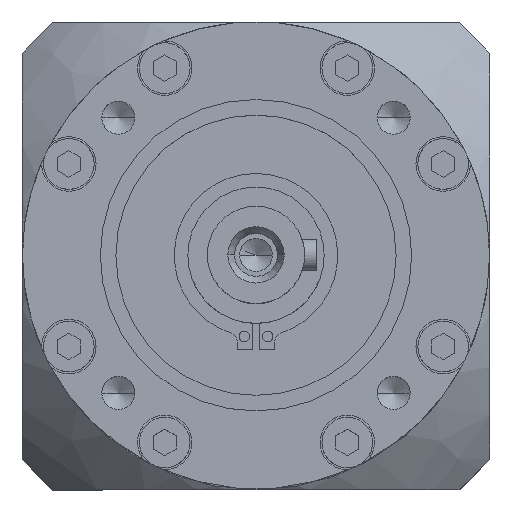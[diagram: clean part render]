
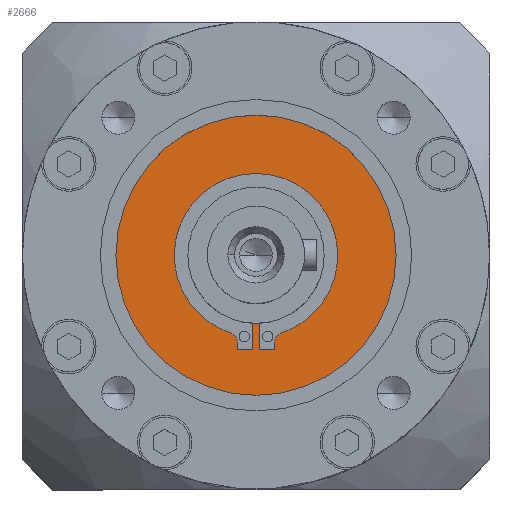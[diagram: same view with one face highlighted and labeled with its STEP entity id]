
A CAD part, top view. The second image highlights one B-rep face of the part: STEP entity #2666.
In plain terms, the highlighted planar face has unit normal (0, 0, 1).
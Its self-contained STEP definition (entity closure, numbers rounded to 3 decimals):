
#1144 = DIRECTION ( 'NONE',  ( 0., -1., 0. ) ) ;
#1232 = DIRECTION ( 'NONE',  ( -1., 0., 0. ) ) ;
#1300 = EDGE_CURVE ( 'NONE', #29089, #21396, #12555, .T. ) ;
#1798 = ORIENTED_EDGE ( 'NONE', *, *, #13590, .F. ) ;
#2118 = EDGE_CURVE ( 'NONE', #21396, #18505, #11483, .T. ) ;
#2312 = EDGE_CURVE ( 'NONE', #10813, #2798, #22223, .T. ) ;
#2423 = CARTESIAN_POINT ( 'NONE',  ( 4.85, -23.779, -4. ) ) ;
#2666 = ADVANCED_FACE ( 'NONE', ( #6902, #12531 ), #16217, .F. ) ;
#2798 = VERTEX_POINT ( 'NONE', #14805 ) ;
#3367 = VERTEX_POINT ( 'NONE', #7587 ) ;
#3915 = VERTEX_POINT ( 'NONE', #22861 ) ;
#4109 = VERTEX_POINT ( 'NONE', #15730 ) ;
#4716 = ORIENTED_EDGE ( 'NONE', *, *, #1300, .F. ) ;
#4730 = LINE ( 'NONE', #29627, #16746 ) ;
#4952 = VERTEX_POINT ( 'NONE', #22464 ) ;
#5133 = AXIS2_PLACEMENT_3D ( 'NONE', #15905, #15876, #15851 ) ;
#5168 = VECTOR ( 'NONE', #5936, 1000. ) ;
#5171 = CARTESIAN_POINT ( 'NONE',  ( 7.35, -22.321, -4. ) ) ;
#5290 = DIRECTION ( 'NONE',  ( 0., 0., 1. ) ) ;
#5829 = ORIENTED_EDGE ( 'NONE', *, *, #14103, .T. ) ;
#5936 = DIRECTION ( 'NONE',  ( 1., 0., 0. ) ) ;
#6033 = DIRECTION ( 'NONE',  ( 1., 0., 0. ) ) ;
#6902 = FACE_BOUND ( 'NONE', #11326, .T. ) ;
#7086 = EDGE_LOOP ( 'NONE', ( #29492, #5829 ) ) ;
#7565 = VECTOR ( 'NONE', #6033, 1000. ) ;
#7587 = CARTESIAN_POINT ( 'NONE',  ( -36., 0., -4. ) ) ;
#7599 = DIRECTION ( 'NONE',  ( -1., 0., 0. ) ) ;
#7826 = VERTEX_POINT ( 'NONE', #2423 ) ;
#8134 = AXIS2_PLACEMENT_3D ( 'NONE', #14342, #30906, #16735 ) ;
#8151 = CARTESIAN_POINT ( 'NONE',  ( 0., 0., -4. ) ) ;
#8994 = CARTESIAN_POINT ( 'NONE',  ( -4.85, 0., -4. ) ) ;
#9220 = CARTESIAN_POINT ( 'NONE',  ( 0.85, -17.479, -4. ) ) ;
#9233 = VERTEX_POINT ( 'NONE', #13890 ) ;
#9744 = EDGE_CURVE ( 'NONE', #4952, #3367, #11724, .T. ) ;
#9753 = VERTEX_POINT ( 'NONE', #9220 ) ;
#10356 = ORIENTED_EDGE ( 'NONE', *, *, #12856, .F. ) ;
#10375 = EDGE_CURVE ( 'NONE', #13138, #10813, #26865, .T. ) ;
#10391 = DIRECTION ( 'NONE',  ( 0., 0., 1. ) ) ;
#10547 = DIRECTION ( 'NONE',  ( 1., 0., 0. ) ) ;
#10637 = DIRECTION ( 'NONE',  ( 0., 1., 0. ) ) ;
#10813 = VERTEX_POINT ( 'NONE', #28590 ) ;
#10995 = EDGE_CURVE ( 'NONE', #3915, #29089, #30668, .T. ) ;
#11126 = CARTESIAN_POINT ( 'NONE',  ( -0.85, 0., -4. ) ) ;
#11234 = DIRECTION ( 'NONE',  ( 0., 1., 0. ) ) ;
#11326 = EDGE_LOOP ( 'NONE', ( #17139, #29836, #4716, #18803, #12732, #1798, #20627, #16186, #29527, #17636, #10356, #17926, #28344, #14339 ) ) ;
#11457 = VECTOR ( 'NONE', #11234, 1000. ) ;
#11483 = CIRCLE ( 'NONE', #25256, 0.5 ) ;
#11619 = CARTESIAN_POINT ( 'NONE',  ( -4.85, -23.779, -4. ) ) ;
#11634 = DIRECTION ( 'NONE',  ( 0., 0., 1. ) ) ;
#11724 = CIRCLE ( 'NONE', #20191, 36. ) ;
#12531 = FACE_OUTER_BOUND ( 'NONE', #7086, .T. ) ;
#12555 = LINE ( 'NONE', #8994, #18122 ) ;
#12732 = ORIENTED_EDGE ( 'NONE', *, *, #18136, .F. ) ;
#12856 = EDGE_CURVE ( 'NONE', #19753, #4109, #30490, .T. ) ;
#13138 = VERTEX_POINT ( 'NONE', #26968 ) ;
#13161 = CARTESIAN_POINT ( 'NONE',  ( -4.85, -22.321, -4. ) ) ;
#13370 = CARTESIAN_POINT ( 'NONE',  ( 0., -24.279, -4. ) ) ;
#13590 = EDGE_CURVE ( 'NONE', #2798, #9233, #20378, .T. ) ;
#13766 = EDGE_CURVE ( 'NONE', #16340, #24790, #17769, .T. ) ;
#13890 = CARTESIAN_POINT ( 'NONE',  ( -21., 0., -4. ) ) ;
#13971 = CARTESIAN_POINT ( 'NONE',  ( 4.35, -23.779, -4. ) ) ;
#13997 = AXIS2_PLACEMENT_3D ( 'NONE', #13971, #30550, #16382 ) ;
#14103 = EDGE_CURVE ( 'NONE', #3367, #4952, #30118, .T. ) ;
#14339 = ORIENTED_EDGE ( 'NONE', *, *, #13766, .F. ) ;
#14342 = CARTESIAN_POINT ( 'NONE',  ( 0., 0., -4. ) ) ;
#14591 = EDGE_CURVE ( 'NONE', #7826, #13138, #4730, .T. ) ;
#14683 = LINE ( 'NONE', #29748, #7565 ) ;
#14776 = EDGE_CURVE ( 'NONE', #4109, #7826, #30793, .T. ) ;
#14805 = CARTESIAN_POINT ( 'NONE',  ( 21., 0., -4. ) ) ;
#15553 = AXIS2_PLACEMENT_3D ( 'NONE', #24626, #10391, #27038 ) ;
#15585 = CARTESIAN_POINT ( 'NONE',  ( 0.85, -24.279, -4. ) ) ;
#15612 = DIRECTION ( 'NONE',  ( 0., 0., -1. ) ) ;
#15730 = CARTESIAN_POINT ( 'NONE',  ( 4.35, -24.279, -4. ) ) ;
#15851 = DIRECTION ( 'NONE',  ( -1., 0., 0. ) ) ;
#15876 = DIRECTION ( 'NONE',  ( 0., 0., -1. ) ) ;
#15905 = CARTESIAN_POINT ( 'NONE',  ( 0., 0., -4. ) ) ;
#16186 = ORIENTED_EDGE ( 'NONE', *, *, #10375, .F. ) ;
#16217 = PLANE ( 'NONE',  #5133 ) ;
#16340 = VERTEX_POINT ( 'NONE', #30643 ) ;
#16382 = DIRECTION ( 'NONE',  ( -1., 0., 0. ) ) ;
#16735 = DIRECTION ( 'NONE',  ( -1., 0., 0. ) ) ;
#16746 = VECTOR ( 'NONE', #10637, 1000. ) ;
#17024 = AXIS2_PLACEMENT_3D ( 'NONE', #19590, #5290, #21975 ) ;
#17139 = ORIENTED_EDGE ( 'NONE', *, *, #28087, .F. ) ;
#17270 = LINE ( 'NONE', #17992, #29845 ) ;
#17292 = CIRCLE ( 'NONE', #8134, 21. ) ;
#17636 = ORIENTED_EDGE ( 'NONE', *, *, #14776, .F. ) ;
#17769 = LINE ( 'NONE', #11126, #11457 ) ;
#17813 = DIRECTION ( 'NONE',  ( 0., -1., 0. ) ) ;
#17926 = ORIENTED_EDGE ( 'NONE', *, *, #23539, .F. ) ;
#17992 = CARTESIAN_POINT ( 'NONE',  ( 0.85, 0., -4. ) ) ;
#18122 = VECTOR ( 'NONE', #17813, 1000. ) ;
#18136 = EDGE_CURVE ( 'NONE', #9233, #3915, #17292, .T. ) ;
#18505 = VERTEX_POINT ( 'NONE', #18857 ) ;
#18803 = ORIENTED_EDGE ( 'NONE', *, *, #10995, .F. ) ;
#18857 = CARTESIAN_POINT ( 'NONE',  ( -4.35, -24.279, -4. ) ) ;
#19590 = CARTESIAN_POINT ( 'NONE',  ( 0., 0., -4. ) ) ;
#19753 = VERTEX_POINT ( 'NONE', #15585 ) ;
#20140 = EDGE_CURVE ( 'NONE', #24790, #9753, #25989, .T. ) ;
#20191 = AXIS2_PLACEMENT_3D ( 'NONE', #25829, #11634, #28228 ) ;
#20378 = CIRCLE ( 'NONE', #15553, 21. ) ;
#20627 = ORIENTED_EDGE ( 'NONE', *, *, #2312, .F. ) ;
#21396 = VERTEX_POINT ( 'NONE', #11619 ) ;
#21858 = DIRECTION ( 'NONE',  ( 0., 0., -1. ) ) ;
#21975 = DIRECTION ( 'NONE',  ( -1., 0., 0. ) ) ;
#22149 = CARTESIAN_POINT ( 'NONE',  ( -0.85, -17.479, -4. ) ) ;
#22223 = CIRCLE ( 'NONE', #26666, 21. ) ;
#22278 = DIRECTION ( 'NONE',  ( -1., 0., 0. ) ) ;
#22322 = DIRECTION ( 'NONE',  ( 0., 0., 1. ) ) ;
#22357 = CARTESIAN_POINT ( 'NONE',  ( 0., 0., -4. ) ) ;
#22464 = CARTESIAN_POINT ( 'NONE',  ( 36., 0., -4. ) ) ;
#22861 = CARTESIAN_POINT ( 'NONE',  ( -6.568, -19.946, -4. ) ) ;
#23539 = EDGE_CURVE ( 'NONE', #9753, #19753, #17270, .T. ) ;
#24004 = AXIS2_PLACEMENT_3D ( 'NONE', #29784, #15612, #1232 ) ;
#24626 = CARTESIAN_POINT ( 'NONE',  ( 0., 0., -4. ) ) ;
#24683 = DIRECTION ( 'NONE',  ( -1., 0., 0. ) ) ;
#24709 = DIRECTION ( 'NONE',  ( 0., 0., 1. ) ) ;
#24757 = CARTESIAN_POINT ( 'NONE',  ( -4.35, -23.779, -4. ) ) ;
#24790 = VERTEX_POINT ( 'NONE', #22149 ) ;
#24803 = DIRECTION ( 'NONE',  ( 0., 0., 1. ) ) ;
#25256 = AXIS2_PLACEMENT_3D ( 'NONE', #24757, #24709, #24683 ) ;
#25829 = CARTESIAN_POINT ( 'NONE',  ( 0., 0., -4. ) ) ;
#25989 = CIRCLE ( 'NONE', #17024, 17.5 ) ;
#26666 = AXIS2_PLACEMENT_3D ( 'NONE', #22357, #22322, #22278 ) ;
#26865 = CIRCLE ( 'NONE', #27958, 2.5 ) ;
#26968 = CARTESIAN_POINT ( 'NONE',  ( 4.85, -22.321, -4. ) ) ;
#27038 = DIRECTION ( 'NONE',  ( -1., 0., 0. ) ) ;
#27958 = AXIS2_PLACEMENT_3D ( 'NONE', #5171, #21858, #7599 ) ;
#28085 = AXIS2_PLACEMENT_3D ( 'NONE', #8151, #24803, #10547 ) ;
#28087 = EDGE_CURVE ( 'NONE', #18505, #16340, #14683, .T. ) ;
#28228 = DIRECTION ( 'NONE',  ( 1., 0., 0. ) ) ;
#28344 = ORIENTED_EDGE ( 'NONE', *, *, #20140, .F. ) ;
#28590 = CARTESIAN_POINT ( 'NONE',  ( 6.568, -19.946, -4. ) ) ;
#29089 = VERTEX_POINT ( 'NONE', #13161 ) ;
#29492 = ORIENTED_EDGE ( 'NONE', *, *, #9744, .T. ) ;
#29527 = ORIENTED_EDGE ( 'NONE', *, *, #14591, .F. ) ;
#29627 = CARTESIAN_POINT ( 'NONE',  ( 4.85, 0., -4. ) ) ;
#29748 = CARTESIAN_POINT ( 'NONE',  ( 0., -24.279, -4. ) ) ;
#29784 = CARTESIAN_POINT ( 'NONE',  ( -7.35, -22.321, -4. ) ) ;
#29836 = ORIENTED_EDGE ( 'NONE', *, *, #2118, .F. ) ;
#29845 = VECTOR ( 'NONE', #1144, 1000. ) ;
#30118 = CIRCLE ( 'NONE', #28085, 36. ) ;
#30490 = LINE ( 'NONE', #13370, #5168 ) ;
#30550 = DIRECTION ( 'NONE',  ( 0., 0., 1. ) ) ;
#30643 = CARTESIAN_POINT ( 'NONE',  ( -0.85, -24.279, -4. ) ) ;
#30668 = CIRCLE ( 'NONE', #24004, 2.5 ) ;
#30793 = CIRCLE ( 'NONE', #13997, 0.5 ) ;
#30906 = DIRECTION ( 'NONE',  ( 0., 0., 1. ) ) ;
